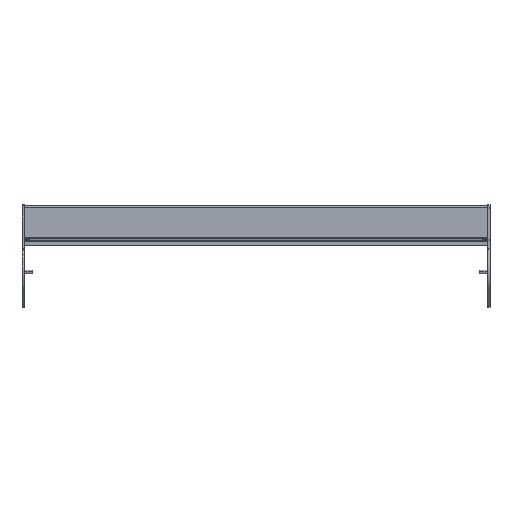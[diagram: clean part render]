
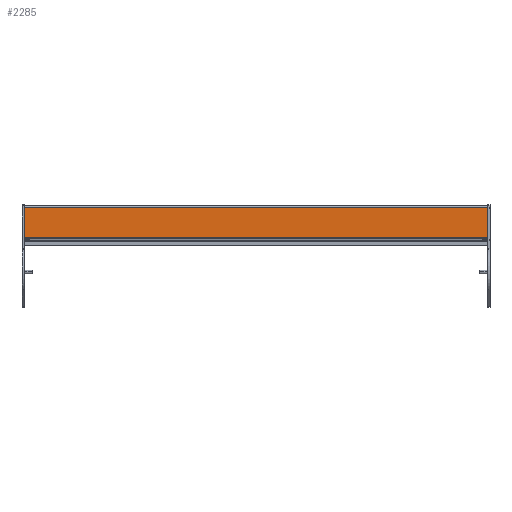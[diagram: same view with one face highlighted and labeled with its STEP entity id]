
A CAD part, top view. The second image highlights one B-rep face of the part: STEP entity #2285.
In plain terms, the highlighted planar face has unit normal (0, 0, 1) as drawn and (1, 0, 0) by its records, which use the part's own axes.
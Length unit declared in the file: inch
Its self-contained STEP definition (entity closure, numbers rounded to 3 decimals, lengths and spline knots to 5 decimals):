
#197=DIRECTION('',(0.,1.,0.));
#198=VECTOR('',#197,1.81445);
#199=CARTESIAN_POINT('',(0.683,-0.84545,-14.118));
#200=LINE('',#199,#198);
#303=DIRECTION('',(0.,1.,0.));
#304=VECTOR('',#303,1.81445);
#305=CARTESIAN_POINT('',(0.683,-0.84545,14.118));
#306=LINE('',#305,#304);
#646=DIRECTION('',(0.,0.,1.));
#647=VECTOR('',#646,28.236);
#648=CARTESIAN_POINT('',(0.683,0.969,-14.118));
#649=LINE('',#648,#647);
#659=DIRECTION('',(0.,0.,-1.));
#660=VECTOR('',#659,28.236);
#661=CARTESIAN_POINT('',(0.683,-0.84545,14.118));
#662=LINE('',#661,#660);
#1270=CARTESIAN_POINT('',(0.683,-0.84545,-14.118));
#1271=CARTESIAN_POINT('',(0.683,0.969,-14.118));
#1272=VERTEX_POINT('',#1270);
#1273=VERTEX_POINT('',#1271);
#1274=CARTESIAN_POINT('',(0.683,-0.84545,14.118));
#1275=CARTESIAN_POINT('',(0.683,0.969,14.118));
#1276=VERTEX_POINT('',#1274);
#1277=VERTEX_POINT('',#1275);
#2273=CARTESIAN_POINT('',(0.683,-0.86334,-14.118));
#2274=DIRECTION('',(1.,0.,0.));
#2275=DIRECTION('',(0.,1.,0.));
#2276=AXIS2_PLACEMENT_3D('',#2273,#2274,#2275);
#2277=PLANE('',#2276);
#2278=ORIENTED_EDGE('',*,*,#1631,.F.);
#2280=ORIENTED_EDGE('',*,*,#2279,.F.);
#2281=ORIENTED_EDGE('',*,*,#1734,.T.);
#2282=ORIENTED_EDGE('',*,*,#2266,.F.);
#2283=EDGE_LOOP('',(#2278,#2280,#2281,#2282));
#2284=FACE_OUTER_BOUND('',#2283,.F.);
#1631=EDGE_CURVE('',#1272,#1273,#200,.T.);
#1734=EDGE_CURVE('',#1276,#1277,#306,.T.);
#2266=EDGE_CURVE('',#1273,#1277,#649,.T.);
#2279=EDGE_CURVE('',#1276,#1272,#662,.T.);
#2285=ADVANCED_FACE('',(#2284),#2277,.T.);
